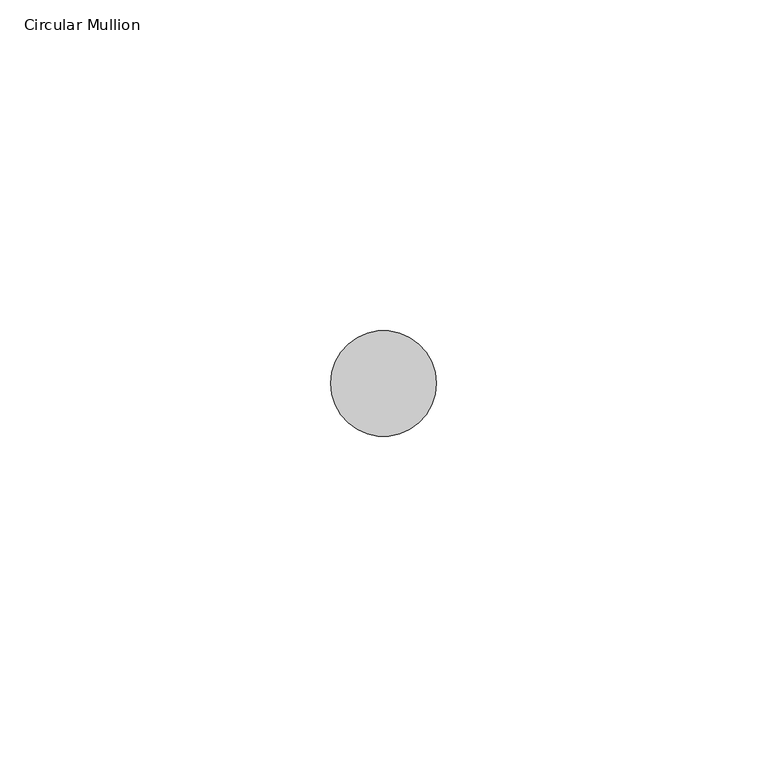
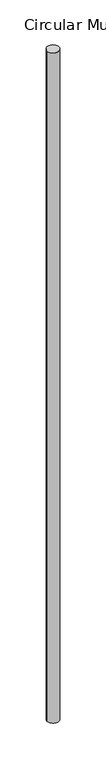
"""IFC4 building model written with IfcOpenShell, lengths in millimetres: member geometry, Circular Mullion : ARQ_HERR_16mm."""

import ifcopenshell
import ifcopenshell.guid

model = None  # the IFC model being written
_history = None  # IfcOwnerHistory: only IFC2X3 demands one
_inside = {}  # id of a spatial element -> (the spatial element, [elements in it])
_under = {}  # id of a project, library or spatial element -> (it, [spatial elements below it])
_declared = {}  # id of a project -> (the project, [libraries it declares])
_typed = {}  # id of a type object -> (the type object, [elements of that type])
_made_of = {}  # id of a material, layer set ... -> (it, [elements and type objects made of it])


def new_model(schema):
    """Start an empty IFC model of exactly this schema.

    Asked for "IFC4X3", IfcOpenShell would pick the latest addendum, in which some entities
    have other attributes; the version numbers below select the first issue.
    IFC2X3 requires an IfcOwnerHistory on every rooted entity: one is made here for all.
    """
    global model, _history
    if schema == "IFC4X3":
        model = ifcopenshell.file(schema_version=(4, 3, 0, 0))
    else:
        model = ifcopenshell.file(schema=schema)
    _inside.clear()
    _under.clear()
    _declared.clear()
    _typed.clear()
    _made_of.clear()
    _history = None
    if model.schema == "IFC2X3":
        org = make("IfcOrganization", Name="unknown")
        user = make(
            "IfcPersonAndOrganization",
            ThePerson=make("IfcPerson", FamilyName="unknown"),
            TheOrganization=org,
        )
        app = make(
            "IfcApplication",
            ApplicationDeveloper=org,
            Version="unknown",
            ApplicationFullName="unknown",
            ApplicationIdentifier="unknown",
        )
        _history = make(
            "IfcOwnerHistory",
            OwningUser=user,
            OwningApplication=app,
            ChangeAction="ADDED",
            CreationDate=0,
        )
    return model


def make(cls, **values):
    """One entity of the class cls with the attributes given. An attribute that is None is left unset."""
    return model.create_entity(
        cls, **{name: value for name, value in values.items() if value is not None}
    )


def rooted(cls, **values):
    """An entity with a GlobalId (a new one), such as an element, a storey or a relation."""
    return make(cls, GlobalId=ifcopenshell.guid.new(), OwnerHistory=_history, **values)


def si_unit(unit_type, name, prefix=None):
    """IfcSIUnit, for example si_unit("LENGTHUNIT", "METRE", prefix="MILLI")."""
    return make("IfcSIUnit", UnitType=unit_type, Prefix=prefix, Name=name)


def assignment(units):
    """IfcUnitAssignment: the units of a project."""
    return None if units is None else make("IfcUnitAssignment", Units=units)


def point(xyz):
    """IfcCartesianPoint."""
    return None if xyz is None else make("IfcCartesianPoint", Coordinates=xyz)


def direction(xyz):
    """IfcDirection."""
    return None if xyz is None else make("IfcDirection", DirectionRatios=xyz)


def frame(location, z_axis=None, x_axis=None):
    """IfcAxis2Placement3D, a coordinate frame: its origin and axes. An axis left out is left unset."""
    return make(
        "IfcAxis2Placement3D",
        Location=point(location),
        Axis=direction(z_axis),
        RefDirection=direction(x_axis),
    )


def frame_2d(location, x_axis=None):
    """IfcAxis2Placement2D, a coordinate frame in the plane: its origin and x axis."""
    return make(
        "IfcAxis2Placement2D", Location=point(location), RefDirection=direction(x_axis)
    )


def origin():
    """The frame at (0, 0, 0) with its axes left unset."""
    return frame((0.0, 0.0, 0.0))


def origin_2d():
    """The frame at (0, 0) in the plane with its x axis left unset."""
    return frame_2d((0.0, 0.0))


def place(relative_to, where):
    """IfcLocalPlacement: puts the frame where relative to a parent placement (None: the world)."""
    return make(
        "IfcLocalPlacement", PlacementRelTo=relative_to, RelativePlacement=where
    )


def context(
    kind, dimensions, precision=None, world=None, true_north=None, identifier=None
):
    """IfcGeometricRepresentationContext, for example the 3D "Model" context."""
    return make(
        "IfcGeometricRepresentationContext",
        ContextIdentifier=identifier,
        ContextType=kind,
        CoordinateSpaceDimension=dimensions,
        Precision=precision,
        WorldCoordinateSystem=world,
        TrueNorth=true_north,
    )


def project(units=None, contexts=None):
    """IfcProject with its units and contexts."""
    return rooted(
        "IfcProject",
        Name="project",
        RepresentationContexts=contexts,
        UnitsInContext=assignment(units),
    )


def spatial(cls, under=None, at=None, **own):
    """A site, building, storey or space (cls), placed at a placement, below another one or the project."""
    s = rooted(cls, ObjectPlacement=at, **own)
    if under is not None:
        _under.setdefault(under.id(), (under, []))[1].append(s)
    return s


def circle_curve(where, radius):
    """IfcCircle in the frame where."""
    return make("IfcCircle", Position=where, Radius=radius)


def trimmed(basis, trim1, trim2, sense, master):
    """IfcTrimmedCurve: the piece of a basis curve between two trims."""
    return make(
        "IfcTrimmedCurve",
        BasisCurve=basis,
        Trim1=trim1,
        Trim2=trim2,
        SenseAgreement=sense,
        MasterRepresentation=master,
    )


def segment(curve, same_sense, transition):
    """IfcCompositeCurveSegment."""
    return make(
        "IfcCompositeCurveSegment",
        Transition=transition,
        SameSense=same_sense,
        ParentCurve=curve,
    )


def composite_curve(segments, self_intersect=None):
    """IfcCompositeCurve: segments joined end to end."""
    return make("IfcCompositeCurve", Segments=segments, SelfIntersect=self_intersect)


def outline(outer, holes=None, kind="AREA"):
    """IfcArbitraryClosedProfileDef: a profile drawn as a closed curve; with holes, ...WithVoids."""
    if holes is None:
        return make("IfcArbitraryClosedProfileDef", ProfileType=kind, OuterCurve=outer)
    return make(
        "IfcArbitraryProfileDefWithVoids",
        ProfileType=kind,
        OuterCurve=outer,
        InnerCurves=holes,
    )


def extrude(swept, where, along, depth):
    """IfcExtrudedAreaSolid: the profile swept, set in the frame where, extruded along a direction by depth."""
    return make(
        "IfcExtrudedAreaSolid",
        SweptArea=swept,
        Position=where,
        ExtrudedDirection=direction(along),
        Depth=depth,
    )


def shape(context_of_items, identifier, shape_type, items):
    """IfcShapeRepresentation: the items that make up one representation, for example the "Body"."""
    return make(
        "IfcShapeRepresentation",
        ContextOfItems=context_of_items,
        RepresentationIdentifier=identifier,
        RepresentationType=shape_type,
        Items=items,
    )


def source(mapping_origin, context_of_items, identifier, shape_type, items):
    """IfcRepresentationMap: a shape defined once, which mapped items show again and again."""
    return make(
        "IfcRepresentationMap",
        MappingOrigin=mapping_origin,
        MappedRepresentation=shape(context_of_items, identifier, shape_type, items),
    )


def transform(
    local_origin,
    x_axis=None,
    y_axis=None,
    z_axis=None,
    scale=None,
    scale2=None,
    scale3=None,
    uniform=True,
):
    """IfcCartesianTransformationOperator3D, or its non-uniform kind. x_axis, y_axis, z_axis: its Axis1, 2, 3."""
    if uniform:
        return make(
            "IfcCartesianTransformationOperator3D",
            Axis1=direction(x_axis),
            Axis2=direction(y_axis),
            LocalOrigin=point(local_origin),
            Scale=scale,
            Axis3=direction(z_axis),
        )
    return make(
        "IfcCartesianTransformationOperator3DnonUniform",
        Axis1=direction(x_axis),
        Axis2=direction(y_axis),
        LocalOrigin=point(local_origin),
        Scale=scale,
        Axis3=direction(z_axis),
        Scale2=scale2,
        Scale3=scale3,
    )


def mapped(mapping_source, mapping_target):
    """IfcMappedItem: shows the shape of a source again, moved by a transform."""
    return make(
        "IfcMappedItem", MappingSource=mapping_source, MappingTarget=mapping_target
    )


def made_of(thing, what):
    """Note that an element or type object is made of a material, layer set ...; save() writes the relation."""
    if what is not None:
        _made_of.setdefault(what.id(), (what, []))[1].append(thing)
    return thing


def element(
    cls,
    number,
    at=None,
    inside=None,
    cuts=None,
    type_object=None,
    material=None,
    context=None,
    identifier="Body",
    shape_type=None,
    held_by="IfcProductDefinitionShape",
    body=None,
    shapes=None,
    **own,
):
    """One element of the class cls, such as IfcWall. Its Tag is "e" and its number.

    at: its placement. inside: the storey or other place that contains it. cuts: it is an
    opening in that element (IfcRelVoidsElement). A single representation is given by context,
    identifier, shape_type and body (its items); several are given by shapes. held_by: the class
    of the entity that holds the representations. save() writes the other relations.
    """
    e = rooted(cls, Tag="e%d" % number, ObjectPlacement=at, **own)
    if body is not None:
        shapes = [shape(context, identifier, shape_type, body)]
    if shapes is not None:
        e.Representation = make(held_by, Representations=shapes)
    if inside is not None:
        _inside.setdefault(inside.id(), (inside, []))[1].append(e)
    if cuts is not None:
        rooted(
            "IfcRelVoidsElement", RelatingBuildingElement=cuts, RelatedOpeningElement=e
        )
    if type_object is not None:
        _typed.setdefault(type_object.id(), (type_object, []))[1].append(e)
    return made_of(e, material)


def aggregate(whole, parts):
    """IfcRelAggregates: a whole, such as a stair, and the parts it consists of."""
    return rooted("IfcRelAggregates", RelatingObject=whole, RelatedObjects=parts)


def save(model, path):
    """Write the relations noted so far, then the file.

    IfcRelAggregates (storeys below a building ...), IfcRelContainedInSpatialStructure (elements
    in a storey), IfcRelDefinesByType, IfcRelAssociatesMaterial and IfcRelDeclares: one each for
    every whole, place, type object, material and project.
    """
    for whole, parts in _under.values():
        aggregate(whole, parts)
    for where, things in _inside.values():
        rooted(
            "IfcRelContainedInSpatialStructure",
            RelatedElements=things,
            RelatingStructure=where,
        )
    for kind, things in _typed.values():
        rooted("IfcRelDefinesByType", RelatedObjects=things, RelatingType=kind)
    for what, things in _made_of.values():
        rooted("IfcRelAssociatesMaterial", RelatedObjects=things, RelatingMaterial=what)
    for by, libraries in _declared.values():
        rooted("IfcRelDeclares", RelatingContext=by, RelatedDefinitions=libraries)
    model.write(path)


def circular_mullion_e1cfff8a(model_context):
    return source(origin(), model_context, "Body", "SweptSolid", [
        extrude(outline(composite_curve([segment(trimmed(circle_curve(origin_2d(), 8.0), [point((8.0, 0.0))], [point((-8.0, 0.0))], False, "CARTESIAN"), True, "CONTINUOUS"), segment(trimmed(circle_curve(origin_2d(), 8.0), [point((-8.0, 0.0))], [point((8.0, 0.0))], False, "CARTESIAN"), True, "CONTINUOUS")], self_intersect=False)), frame((0.0, 0.0, -940.95583), z_axis=(0.0, 0.0, 1.0), x_axis=(1.0, 0.0, 0.0)), (0.0, 0.0, 1.0), 940.95583),
    ])


if __name__ == "__main__":
    model = new_model("IFC4")
    model_context = context("Model", 3, world=origin())
    ifc_project = project(units=[si_unit("LENGTHUNIT", "METRE", prefix="MILLI")], contexts=[model_context])
    site = spatial("IfcSite", under=ifc_project)
    building = spatial("IfcBuilding", under=site)
    placement = place(None, origin())
    circular_mullion_shape = circular_mullion_e1cfff8a(model_context)
    element("IfcMember", 1, ObjectType="Circular Mullion : ARQ_HERR_16mm", at=placement, inside=building, context=model_context, shape_type="MappedRepresentation", body=[
        mapped(circular_mullion_shape, transform((0.0, 0.0, 0.0), x_axis=(1.0, 0.0, 0.0), y_axis=(0.0, 1.0, 0.0), z_axis=(0.0, 0.0, 1.0))),
    ])
    save(model, "model.ifc")
